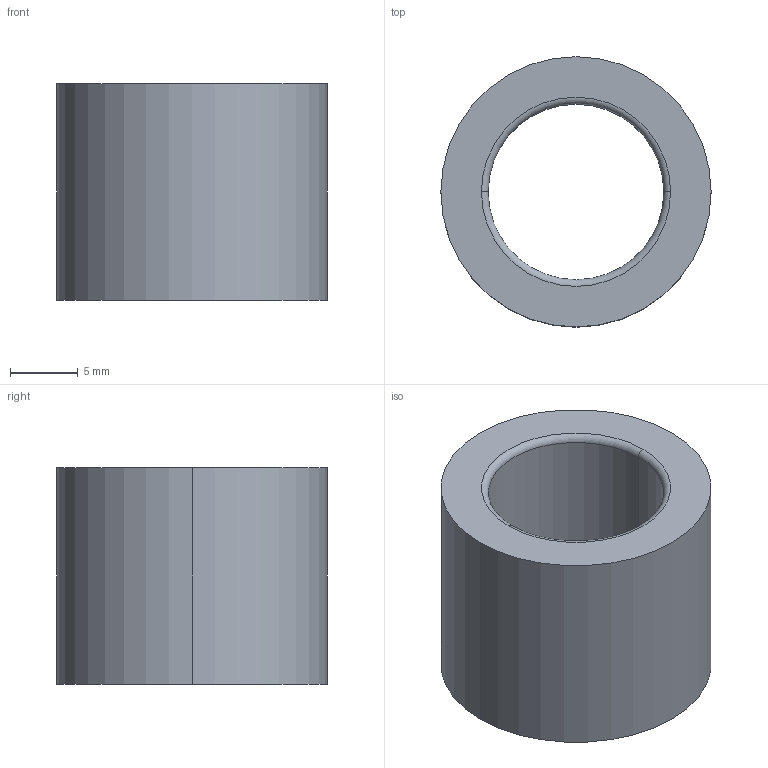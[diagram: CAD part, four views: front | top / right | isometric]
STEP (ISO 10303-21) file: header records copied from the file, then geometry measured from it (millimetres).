
FILE_DESCRIPTION(/* description */ (''),/* implementation_level */ '2;1');
FILE_NAME(/* name */ '3d_sgbz13-16_00299_r00.stp',/* time_stamp */ '2011-01-10T14:11:12+09:00',/* author */ ('MISUMI'),/* organization */ (''),/* preprocessor_version */ 'ST-DEVELOPER v11',/* originating_system */ 'UGS - NX 5.0',/* authorisation */ '');
FILE_SCHEMA (('CONFIG_CONTROL_DESIGN'));
Length unit declared in the file: millimetre
Products named in the file (1): 3d_sgbz13-16_00299_r00
Bounding box: 20 x 20 x 16 mm (x, y, z)
Volume: 2898.4 mm3; surface area: 2004.3 mm2
Topology: 1 solids, 1 shells, 10 faces, 20 edges, 12 vertices
Faces by surface type: cylinder 4, torus 4, plane 2
Entity records: 358 total; most frequent: DIRECTION 58, CARTESIAN_POINT 43, ORIENTED_EDGE 40, AXIS2_PLACEMENT_3D 27, EDGE_CURVE 20, CIRCLE 16, EDGE_LOOP 12, VERTEX_POINT 12
